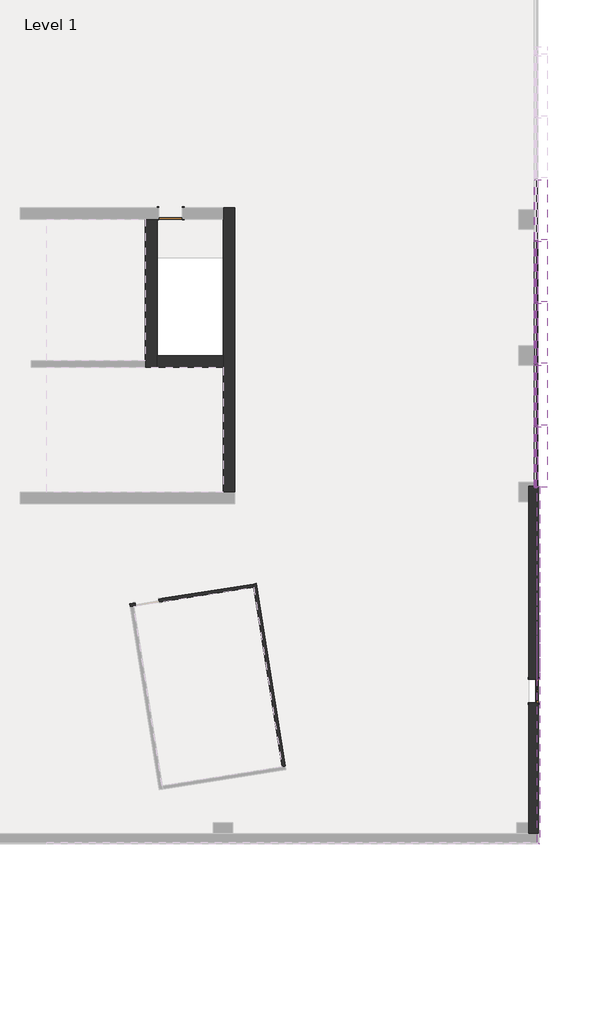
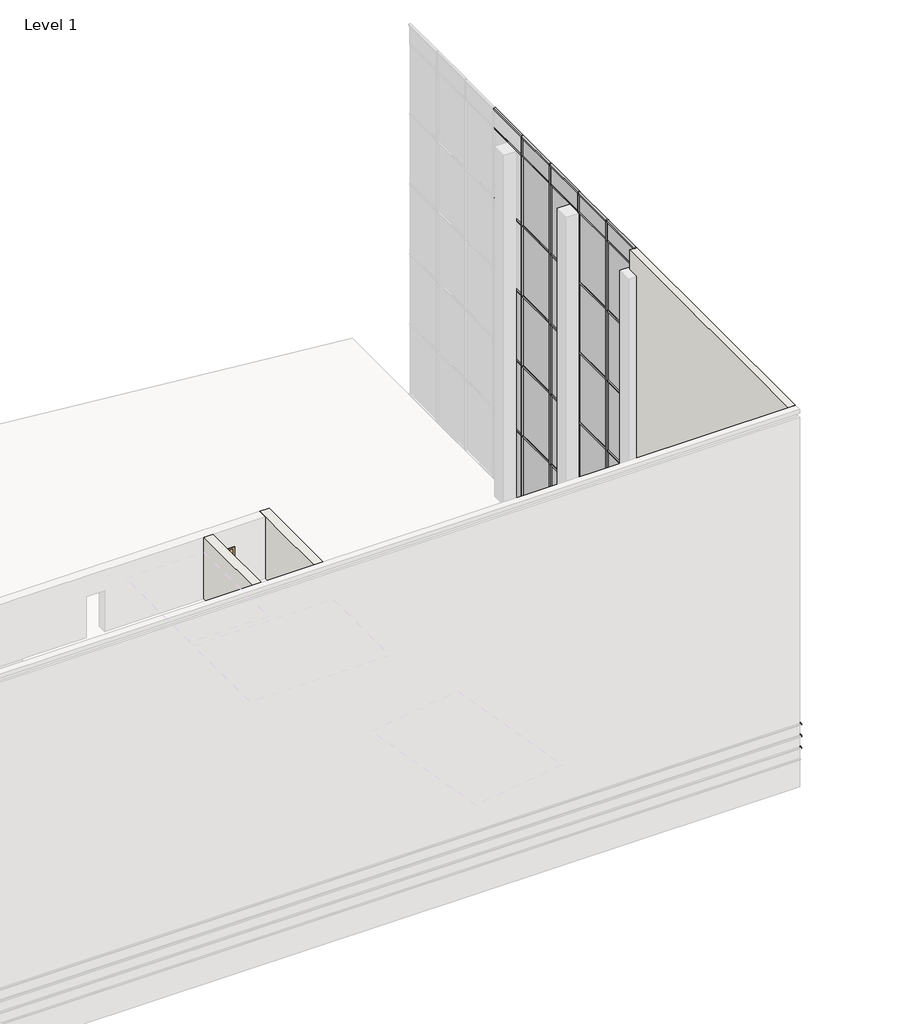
# One storey, part 8 of 23: 64 members, 27 plates, 6 walls, 3 proxies, 2 doors.
"""IFC4 building model written with IfcOpenShell, lengths in millimetres."""

from ifc_helpers import new_model, si_unit, frame, origin, origin_with_axes, place, context, project, spatial, polyline, outline, extrude, faceted_brep, transform, mapped, element, save
from components import door_3c99239a, door_e057ad39, member_4178592a, member_8dc9af40, member_0491a5d0, member_26e31a6d, member_a26b4311, member_810865a4, member_90793d7c, member_64b167af, system_panel_glazed_bb983545, system_panel_solid_a8b18003

model = new_model("IFC4")

# Units and contexts
model_context = context("Model", 3, world=origin())
ifc_project = project(units=[si_unit("LENGTHUNIT", "METRE", prefix="MILLI")], contexts=[model_context])

# Site, building, storey
site = spatial("IfcSite", under=ifc_project)
building = spatial("IfcBuilding", under=site)
storey = spatial("IfcBuildingStorey", under=building, Name="Level 1", Elevation=0.0)

# Proxies
placement = place(None, origin())
element("IfcBuildingElementProxy", 1, Name="Reveals", at=placement, inside=storey, context=model_context, shape_type="SweptSolid", body=[
    extrude(outline(polyline([(15157.6054088, -14142.3728492), (15249.6804088, -14142.3728492), (15249.6804088, -21686.0488327), (15157.6054088, -21686.0488327), (15157.6054088, -14142.3728492)])), frame((0.0, 0.0, 1625.6), z_axis=(0.0, 0.0, 1.0), x_axis=(1.0, 0.0, 0.0)), (0.0, 0.0, 1.0), 67.7333333),
    extrude(outline(polyline([(15157.6054088, -22600.4488327), (15249.6804088, -22600.4488327), (15249.6804088, -28148.8853492), (15157.6054088, -28056.8103492), (15157.6054088, -22600.4488327)])), frame((0.0, 0.0, 1625.6), z_axis=(0.0, 0.0, 1.0), x_axis=(1.0, 0.0, 0.0)), (0.0, 0.0, 1.0), 67.7333333),
])
element("IfcBuildingElementProxy", 2, Name="Reveals", at=placement, inside=storey, context=model_context, shape_type="SweptSolid", body=[
    extrude(outline(polyline([(15157.6054088, -14142.3728492), (15249.6804088, -14142.3728492), (15249.6804088, -28148.8853492), (15157.6054088, -28056.8103492), (15157.6054088, -14142.3728492)])), frame((0.0, 0.0, 2235.2), z_axis=(0.0, 0.0, 1.0), x_axis=(1.0, 0.0, 0.0)), (0.0, 0.0, 1.0), 67.7333333),
])
element("IfcBuildingElementProxy", 3, Name="Reveals", at=placement, inside=storey, context=model_context, shape_type="SweptSolid", body=[
    extrude(outline(polyline([(15157.6054088, -14142.3728492), (15249.6804088, -14142.3728492), (15249.6804088, -28148.8853492), (15157.6054088, -28056.8103492), (15157.6054088, -14142.3728492)])), frame((0.0, 0.0, 2844.8), z_axis=(0.0, 0.0, 1.0), x_axis=(1.0, 0.0, 0.0)), (0.0, 0.0, 1.0), 67.7333333),
])

# Doors
door_shape = door_3c99239a(model_context)
element("IfcDoor", 4, ObjectType="Single-Flush : 36\" x 84\"", at=placement, inside=storey, context=model_context, shape_type="MappedRepresentation", body=[
    mapped(door_shape, transform((817.7000645, -3469.6103492, 0.0), x_axis=(-1.0, 0.0, 0.0), y_axis=(0.0, -1.0, 0.0), z_axis=(0.0, 0.0, 1.0))),
])
door_2_shape = door_e057ad39(model_context)
element("IfcDoor", 5, ObjectType="Single-Glass 3 : 36\" x 84\"", at=placement, inside=storey, context=model_context, shape_type="MappedRepresentation", body=[
    mapped(door_2_shape, transform((15006.7929088, -22143.3728492, 0.0), x_axis=(0.0, -1.0, 0.0), y_axis=(1.0, 0.0, 0.0), z_axis=(0.0, 0.0, 1.0))),
])

# Members
member_shape = member_4178592a(model_context)
element("IfcMember", 6, ObjectType="Quad Corner Mullion : 5\" x 5\" Quad Corner", at=placement, inside=storey, context=model_context, shape_type="MappedRepresentation", body=[
    mapped(member_shape, transform((15106.8054088, -14174.1228492, 19304.0), x_axis=(0.0, 0.0, 1.0), y_axis=(-1.0, 0.0, 0.0), z_axis=(0.0, -1.0, 0.0))),
])
element("IfcMember", 7, ObjectType="Quad Corner Mullion : 5\" x 5\" Quad Corner", at=placement, inside=storey, context=model_context, shape_type="MappedRepresentation", body=[
    mapped(member_shape, transform((15106.8054088, -4501.4913788, 19304.0), x_axis=(0.0, 0.0, 1.0), y_axis=(-1.0, 0.0, 0.0), z_axis=(0.0, -1.0, 0.0))),
])
element("IfcMember", 8, ObjectType="Quad Corner Mullion : 5\" x 5\" Quad Corner", at=placement, inside=storey, context=model_context, shape_type="MappedRepresentation", body=[
    mapped(member_shape, transform((15106.8054088, -6919.6492464, 19304.0), x_axis=(0.0, 0.0, 1.0), y_axis=(-1.0, 0.0, 0.0), z_axis=(0.0, -1.0, 0.0))),
])
element("IfcMember", 9, ObjectType="Quad Corner Mullion : 5\" x 5\" Quad Corner", at=placement, inside=storey, context=model_context, shape_type="MappedRepresentation", body=[
    mapped(member_shape, transform((15106.8054088, -9337.807114, 19304.0), x_axis=(0.0, 0.0, 1.0), y_axis=(-1.0, 0.0, 0.0), z_axis=(0.0, -1.0, 0.0))),
])
element("IfcMember", 10, ObjectType="Quad Corner Mullion : 5\" x 5\" Quad Corner", at=placement, inside=storey, context=model_context, shape_type="MappedRepresentation", body=[
    mapped(member_shape, transform((15106.8054088, -11755.9649816, 19304.0), x_axis=(0.0, 0.0, 1.0), y_axis=(-1.0, 0.0, 0.0), z_axis=(0.0, -1.0, 0.0))),
])
element("IfcMember", 11, ObjectType="Quad Corner Mullion : 5\" x 5\" Quad Corner", at=placement, inside=storey, context=model_context, shape_type="MappedRepresentation", body=[
    mapped(member_shape, transform((15106.8054088, -4564.9913788, 0.0), x_axis=(0.0, 0.0, -1.0), y_axis=(-1.0, 0.0, 0.0), z_axis=(0.0, 1.0, 0.0))),
])
element("IfcMember", 12, ObjectType="Quad Corner Mullion : 5\" x 5\" Quad Corner", at=placement, inside=storey, context=model_context, shape_type="MappedRepresentation", body=[
    mapped(member_shape, transform((15106.8054088, -6983.1492464, 0.0), x_axis=(0.0, 0.0, -1.0), y_axis=(-1.0, 0.0, 0.0), z_axis=(0.0, 1.0, 0.0))),
])
element("IfcMember", 13, ObjectType="Quad Corner Mullion : 5\" x 5\" Quad Corner", at=placement, inside=storey, context=model_context, shape_type="MappedRepresentation", body=[
    mapped(member_shape, transform((15106.8054088, -9401.307114, 0.0), x_axis=(0.0, 0.0, -1.0), y_axis=(-1.0, 0.0, 0.0), z_axis=(0.0, 1.0, 0.0))),
])
element("IfcMember", 14, ObjectType="Quad Corner Mullion : 5\" x 5\" Quad Corner", at=placement, inside=storey, context=model_context, shape_type="MappedRepresentation", body=[
    mapped(member_shape, transform((15106.8054088, -11819.4649816, 0.0), x_axis=(0.0, 0.0, -1.0), y_axis=(-1.0, 0.0, 0.0), z_axis=(0.0, 1.0, 0.0))),
])
member_2_shape = member_8dc9af40(model_context)
element("IfcMember", 15, ObjectType="Rectangular Mullion : 1.5\" x 2.5\" rectangular", at=placement, inside=storey, context=model_context, shape_type="MappedRepresentation", body=[
    mapped(member_2_shape, transform((15106.8054088, -14212.2228492, 3666.6228811), x_axis=(0.0, -1.0, 0.0), y_axis=(-1.0, 0.0, 0.0), z_axis=(0.0, 0.0, -1.0))),
])
element("IfcMember", 16, ObjectType="Rectangular Mullion : 1.5\" x 2.5\" rectangular", at=placement, inside=storey, context=model_context, shape_type="MappedRepresentation", body=[
    mapped(member_2_shape, transform((15106.8054088, -14212.2228492, 7324.2228811), x_axis=(0.0, -1.0, 0.0), y_axis=(-1.0, 0.0, 0.0), z_axis=(0.0, 0.0, -1.0))),
])
element("IfcMember", 17, ObjectType="Rectangular Mullion : 1.5\" x 2.5\" rectangular", at=placement, inside=storey, context=model_context, shape_type="MappedRepresentation", body=[
    mapped(member_2_shape, transform((15106.8054088, -14212.2228492, 10981.8228811), x_axis=(0.0, -1.0, 0.0), y_axis=(-1.0, 0.0, 0.0), z_axis=(0.0, 0.0, -1.0))),
])
element("IfcMember", 18, ObjectType="Rectangular Mullion : 1.5\" x 2.5\" rectangular", at=placement, inside=storey, context=model_context, shape_type="MappedRepresentation", body=[
    mapped(member_2_shape, transform((15106.8054088, -14212.2228492, 14639.4228811), x_axis=(0.0, -1.0, 0.0), y_axis=(-1.0, 0.0, 0.0), z_axis=(0.0, 0.0, -1.0))),
])
member_3_shape = member_0491a5d0(model_context)
element("IfcMember", 19, ObjectType="Rectangular Mullion : 1.5\" x 2.5\" rectangular", at=placement, inside=storey, context=model_context, shape_type="MappedRepresentation", body=[
    mapped(member_3_shape, transform((15106.8054088, -14212.2228492, 0.0), x_axis=(0.0, -1.0, 0.0), y_axis=(-1.0, 0.0, 0.0), z_axis=(0.0, 0.0, -1.0))),
])
member_4_shape = member_26e31a6d(model_context)
element("IfcMember", 20, ObjectType="Rectangular Mullion : 1.5\" x 2.5\" rectangular", at=placement, inside=storey, context=model_context, shape_type="MappedRepresentation", body=[
    mapped(member_4_shape, transform((15106.8054088, -14212.2228492, 18297.0228811), x_axis=(0.0, -1.0, 0.0), y_axis=(-1.0, 0.0, 0.0), z_axis=(0.0, 0.0, -1.0))),
])
member_5_shape = member_a26b4311(model_context)
element("IfcMember", 21, ObjectType="Rectangular Mullion : 2.5\" x 18\" rectangular", at=placement, inside=storey, context=model_context, shape_type="MappedRepresentation", body=[
    mapped(member_5_shape, transform((15106.8054088, -4501.4913788, 3666.6228811), x_axis=(0.0, 0.0, 1.0), y_axis=(-1.0, 0.0, 0.0), z_axis=(0.0, -1.0, 0.0))),
])
element("IfcMember", 22, ObjectType="Rectangular Mullion : 2.5\" x 18\" rectangular", at=placement, inside=storey, context=model_context, shape_type="MappedRepresentation", body=[
    mapped(member_5_shape, transform((15106.8054088, -6919.6492464, 3666.6228811), x_axis=(0.0, 0.0, 1.0), y_axis=(-1.0, 0.0, 0.0), z_axis=(0.0, -1.0, 0.0))),
])
element("IfcMember", 23, ObjectType="Rectangular Mullion : 2.5\" x 18\" rectangular", at=placement, inside=storey, context=model_context, shape_type="MappedRepresentation", body=[
    mapped(member_5_shape, transform((15106.8054088, -9337.807114, 3666.6228811), x_axis=(0.0, 0.0, 1.0), y_axis=(-1.0, 0.0, 0.0), z_axis=(0.0, -1.0, 0.0))),
])
element("IfcMember", 24, ObjectType="Rectangular Mullion : 2.5\" x 18\" rectangular", at=placement, inside=storey, context=model_context, shape_type="MappedRepresentation", body=[
    mapped(member_5_shape, transform((15106.8054088, -11755.9649816, 3666.6228811), x_axis=(0.0, 0.0, 1.0), y_axis=(-1.0, 0.0, 0.0), z_axis=(0.0, -1.0, 0.0))),
])
element("IfcMember", 25, ObjectType="Rectangular Mullion : 2.5\" x 18\" rectangular", at=placement, inside=storey, context=model_context, shape_type="MappedRepresentation", body=[
    mapped(member_5_shape, transform((15106.8054088, -14174.1228492, 3666.6228811), x_axis=(0.0, 0.0, 1.0), y_axis=(-1.0, 0.0, 0.0), z_axis=(0.0, -1.0, 0.0))),
])
element("IfcMember", 26, ObjectType="Rectangular Mullion : 2.5\" x 18\" rectangular", at=placement, inside=storey, context=model_context, shape_type="MappedRepresentation", body=[
    mapped(member_5_shape, transform((15106.8054088, -4501.4913788, 7324.2228811), x_axis=(0.0, 0.0, 1.0), y_axis=(-1.0, 0.0, 0.0), z_axis=(0.0, -1.0, 0.0))),
])
element("IfcMember", 27, ObjectType="Rectangular Mullion : 2.5\" x 18\" rectangular", at=placement, inside=storey, context=model_context, shape_type="MappedRepresentation", body=[
    mapped(member_5_shape, transform((15106.8054088, -6919.6492464, 7324.2228811), x_axis=(0.0, 0.0, 1.0), y_axis=(-1.0, 0.0, 0.0), z_axis=(0.0, -1.0, 0.0))),
])
element("IfcMember", 28, ObjectType="Rectangular Mullion : 2.5\" x 18\" rectangular", at=placement, inside=storey, context=model_context, shape_type="MappedRepresentation", body=[
    mapped(member_5_shape, transform((15106.8054088, -9337.807114, 7324.2228811), x_axis=(0.0, 0.0, 1.0), y_axis=(-1.0, 0.0, 0.0), z_axis=(0.0, -1.0, 0.0))),
])
element("IfcMember", 29, ObjectType="Rectangular Mullion : 2.5\" x 18\" rectangular", at=placement, inside=storey, context=model_context, shape_type="MappedRepresentation", body=[
    mapped(member_5_shape, transform((15106.8054088, -11755.9649816, 7324.2228811), x_axis=(0.0, 0.0, 1.0), y_axis=(-1.0, 0.0, 0.0), z_axis=(0.0, -1.0, 0.0))),
])
element("IfcMember", 30, ObjectType="Rectangular Mullion : 2.5\" x 18\" rectangular", at=placement, inside=storey, context=model_context, shape_type="MappedRepresentation", body=[
    mapped(member_5_shape, transform((15106.8054088, -14174.1228492, 7324.2228811), x_axis=(0.0, 0.0, 1.0), y_axis=(-1.0, 0.0, 0.0), z_axis=(0.0, -1.0, 0.0))),
])
element("IfcMember", 31, ObjectType="Rectangular Mullion : 2.5\" x 18\" rectangular", at=placement, inside=storey, context=model_context, shape_type="MappedRepresentation", body=[
    mapped(member_5_shape, transform((15106.8054088, -4501.4913788, 10981.8228811), x_axis=(0.0, 0.0, 1.0), y_axis=(-1.0, 0.0, 0.0), z_axis=(0.0, -1.0, 0.0))),
])
element("IfcMember", 32, ObjectType="Rectangular Mullion : 2.5\" x 18\" rectangular", at=placement, inside=storey, context=model_context, shape_type="MappedRepresentation", body=[
    mapped(member_5_shape, transform((15106.8054088, -6919.6492464, 10981.8228811), x_axis=(0.0, 0.0, 1.0), y_axis=(-1.0, 0.0, 0.0), z_axis=(0.0, -1.0, 0.0))),
])
element("IfcMember", 33, ObjectType="Rectangular Mullion : 2.5\" x 18\" rectangular", at=placement, inside=storey, context=model_context, shape_type="MappedRepresentation", body=[
    mapped(member_5_shape, transform((15106.8054088, -9337.807114, 10981.8228811), x_axis=(0.0, 0.0, 1.0), y_axis=(-1.0, 0.0, 0.0), z_axis=(0.0, -1.0, 0.0))),
])
element("IfcMember", 34, ObjectType="Rectangular Mullion : 2.5\" x 18\" rectangular", at=placement, inside=storey, context=model_context, shape_type="MappedRepresentation", body=[
    mapped(member_5_shape, transform((15106.8054088, -11755.9649816, 10981.8228811), x_axis=(0.0, 0.0, 1.0), y_axis=(-1.0, 0.0, 0.0), z_axis=(0.0, -1.0, 0.0))),
])
element("IfcMember", 35, ObjectType="Rectangular Mullion : 2.5\" x 18\" rectangular", at=placement, inside=storey, context=model_context, shape_type="MappedRepresentation", body=[
    mapped(member_5_shape, transform((15106.8054088, -14174.1228492, 10981.8228811), x_axis=(0.0, 0.0, 1.0), y_axis=(-1.0, 0.0, 0.0), z_axis=(0.0, -1.0, 0.0))),
])
element("IfcMember", 36, ObjectType="Rectangular Mullion : 2.5\" x 18\" rectangular", at=placement, inside=storey, context=model_context, shape_type="MappedRepresentation", body=[
    mapped(member_5_shape, transform((15106.8054088, -4501.4913788, 14639.4228811), x_axis=(0.0, 0.0, 1.0), y_axis=(-1.0, 0.0, 0.0), z_axis=(0.0, -1.0, 0.0))),
])
element("IfcMember", 37, ObjectType="Rectangular Mullion : 2.5\" x 18\" rectangular", at=placement, inside=storey, context=model_context, shape_type="MappedRepresentation", body=[
    mapped(member_5_shape, transform((15106.8054088, -6919.6492464, 14639.4228811), x_axis=(0.0, 0.0, 1.0), y_axis=(-1.0, 0.0, 0.0), z_axis=(0.0, -1.0, 0.0))),
])
element("IfcMember", 38, ObjectType="Rectangular Mullion : 2.5\" x 18\" rectangular", at=placement, inside=storey, context=model_context, shape_type="MappedRepresentation", body=[
    mapped(member_5_shape, transform((15106.8054088, -9337.807114, 14639.4228811), x_axis=(0.0, 0.0, 1.0), y_axis=(-1.0, 0.0, 0.0), z_axis=(0.0, -1.0, 0.0))),
])
element("IfcMember", 39, ObjectType="Rectangular Mullion : 2.5\" x 18\" rectangular", at=placement, inside=storey, context=model_context, shape_type="MappedRepresentation", body=[
    mapped(member_5_shape, transform((15106.8054088, -11755.9649816, 14639.4228811), x_axis=(0.0, 0.0, 1.0), y_axis=(-1.0, 0.0, 0.0), z_axis=(0.0, -1.0, 0.0))),
])
element("IfcMember", 40, ObjectType="Rectangular Mullion : 2.5\" x 18\" rectangular", at=placement, inside=storey, context=model_context, shape_type="MappedRepresentation", body=[
    mapped(member_5_shape, transform((15106.8054088, -14174.1228492, 14639.4228811), x_axis=(0.0, 0.0, 1.0), y_axis=(-1.0, 0.0, 0.0), z_axis=(0.0, -1.0, 0.0))),
])
element("IfcMember", 41, ObjectType="Rectangular Mullion : 2.5\" x 18\" rectangular", at=placement, inside=storey, context=model_context, shape_type="MappedRepresentation", body=[
    mapped(member_5_shape, transform((15106.8054088, -4501.4913788, 18297.0228811), x_axis=(0.0, 0.0, 1.0), y_axis=(-1.0, 0.0, 0.0), z_axis=(0.0, -1.0, 0.0))),
])
element("IfcMember", 42, ObjectType="Rectangular Mullion : 2.5\" x 18\" rectangular", at=placement, inside=storey, context=model_context, shape_type="MappedRepresentation", body=[
    mapped(member_5_shape, transform((15106.8054088, -6919.6492464, 18297.0228811), x_axis=(0.0, 0.0, 1.0), y_axis=(-1.0, 0.0, 0.0), z_axis=(0.0, -1.0, 0.0))),
])
element("IfcMember", 43, ObjectType="Rectangular Mullion : 2.5\" x 18\" rectangular", at=placement, inside=storey, context=model_context, shape_type="MappedRepresentation", body=[
    mapped(member_5_shape, transform((15106.8054088, -9337.807114, 18297.0228811), x_axis=(0.0, 0.0, 1.0), y_axis=(-1.0, 0.0, 0.0), z_axis=(0.0, -1.0, 0.0))),
])
element("IfcMember", 44, ObjectType="Rectangular Mullion : 2.5\" x 18\" rectangular", at=placement, inside=storey, context=model_context, shape_type="MappedRepresentation", body=[
    mapped(member_5_shape, transform((15106.8054088, -11755.9649816, 18297.0228811), x_axis=(0.0, 0.0, 1.0), y_axis=(-1.0, 0.0, 0.0), z_axis=(0.0, -1.0, 0.0))),
])
element("IfcMember", 45, ObjectType="Rectangular Mullion : 2.5\" x 18\" rectangular", at=placement, inside=storey, context=model_context, shape_type="MappedRepresentation", body=[
    mapped(member_5_shape, transform((15106.8054088, -14174.1228492, 18297.0228811), x_axis=(0.0, 0.0, 1.0), y_axis=(-1.0, 0.0, 0.0), z_axis=(0.0, -1.0, 0.0))),
])
member_6_shape = member_810865a4(model_context)
element("IfcMember", 46, ObjectType="Rectangular Mullion : 2.5\" x 5\" rectangular", at=placement, inside=storey, context=model_context, shape_type="MappedRepresentation", body=[
    mapped(member_6_shape, transform((15106.8054088, -9369.557114, 3666.6228811), x_axis=(0.0, -1.0, 0.0), y_axis=(-1.0, 0.0, 0.0), z_axis=(0.0, 0.0, -1.0))),
])
element("IfcMember", 47, ObjectType="Rectangular Mullion : 2.5\" x 5\" rectangular", at=placement, inside=storey, context=model_context, shape_type="MappedRepresentation", body=[
    mapped(member_6_shape, transform((15106.8054088, -4533.2413788, 3666.6228811), x_axis=(0.0, -1.0, 0.0), y_axis=(-1.0, 0.0, 0.0), z_axis=(0.0, 0.0, -1.0))),
])
element("IfcMember", 48, ObjectType="Rectangular Mullion : 2.5\" x 5\" rectangular", at=placement, inside=storey, context=model_context, shape_type="MappedRepresentation", body=[
    mapped(member_6_shape, transform((15106.8054088, -6951.3992464, 3666.6228811), x_axis=(0.0, -1.0, 0.0), y_axis=(-1.0, 0.0, 0.0), z_axis=(0.0, 0.0, -1.0))),
])
element("IfcMember", 49, ObjectType="Rectangular Mullion : 2.5\" x 5\" rectangular", at=placement, inside=storey, context=model_context, shape_type="MappedRepresentation", body=[
    mapped(member_6_shape, transform((15106.8054088, -11787.7149816, 3666.6228811), x_axis=(0.0, -1.0, 0.0), y_axis=(-1.0, 0.0, 0.0), z_axis=(0.0, 0.0, -1.0))),
])
element("IfcMember", 50, ObjectType="Rectangular Mullion : 2.5\" x 5\" rectangular", at=placement, inside=storey, context=model_context, shape_type="MappedRepresentation", body=[
    mapped(member_6_shape, transform((15106.8054088, -9369.557114, 7324.2228811), x_axis=(0.0, -1.0, 0.0), y_axis=(-1.0, 0.0, 0.0), z_axis=(0.0, 0.0, -1.0))),
])
element("IfcMember", 51, ObjectType="Rectangular Mullion : 2.5\" x 5\" rectangular", at=placement, inside=storey, context=model_context, shape_type="MappedRepresentation", body=[
    mapped(member_6_shape, transform((15106.8054088, -4533.2413788, 7324.2228811), x_axis=(0.0, -1.0, 0.0), y_axis=(-1.0, 0.0, 0.0), z_axis=(0.0, 0.0, -1.0))),
])
element("IfcMember", 52, ObjectType="Rectangular Mullion : 2.5\" x 5\" rectangular", at=placement, inside=storey, context=model_context, shape_type="MappedRepresentation", body=[
    mapped(member_6_shape, transform((15106.8054088, -6951.3992464, 7324.2228811), x_axis=(0.0, -1.0, 0.0), y_axis=(-1.0, 0.0, 0.0), z_axis=(0.0, 0.0, -1.0))),
])
element("IfcMember", 53, ObjectType="Rectangular Mullion : 2.5\" x 5\" rectangular", at=placement, inside=storey, context=model_context, shape_type="MappedRepresentation", body=[
    mapped(member_6_shape, transform((15106.8054088, -11787.7149816, 7324.2228811), x_axis=(0.0, -1.0, 0.0), y_axis=(-1.0, 0.0, 0.0), z_axis=(0.0, 0.0, -1.0))),
])
element("IfcMember", 54, ObjectType="Rectangular Mullion : 2.5\" x 5\" rectangular", at=placement, inside=storey, context=model_context, shape_type="MappedRepresentation", body=[
    mapped(member_6_shape, transform((15106.8054088, -9369.557114, 10981.8228811), x_axis=(0.0, -1.0, 0.0), y_axis=(-1.0, 0.0, 0.0), z_axis=(0.0, 0.0, -1.0))),
])
element("IfcMember", 55, ObjectType="Rectangular Mullion : 2.5\" x 5\" rectangular", at=placement, inside=storey, context=model_context, shape_type="MappedRepresentation", body=[
    mapped(member_6_shape, transform((15106.8054088, -4533.2413788, 10981.8228811), x_axis=(0.0, -1.0, 0.0), y_axis=(-1.0, 0.0, 0.0), z_axis=(0.0, 0.0, -1.0))),
])
element("IfcMember", 56, ObjectType="Rectangular Mullion : 2.5\" x 5\" rectangular", at=placement, inside=storey, context=model_context, shape_type="MappedRepresentation", body=[
    mapped(member_6_shape, transform((15106.8054088, -6951.3992464, 10981.8228811), x_axis=(0.0, -1.0, 0.0), y_axis=(-1.0, 0.0, 0.0), z_axis=(0.0, 0.0, -1.0))),
])
element("IfcMember", 57, ObjectType="Rectangular Mullion : 2.5\" x 5\" rectangular", at=placement, inside=storey, context=model_context, shape_type="MappedRepresentation", body=[
    mapped(member_6_shape, transform((15106.8054088, -11787.7149816, 10981.8228811), x_axis=(0.0, -1.0, 0.0), y_axis=(-1.0, 0.0, 0.0), z_axis=(0.0, 0.0, -1.0))),
])
element("IfcMember", 58, ObjectType="Rectangular Mullion : 2.5\" x 5\" rectangular", at=placement, inside=storey, context=model_context, shape_type="MappedRepresentation", body=[
    mapped(member_6_shape, transform((15106.8054088, -9369.557114, 14639.4228811), x_axis=(0.0, -1.0, 0.0), y_axis=(-1.0, 0.0, 0.0), z_axis=(0.0, 0.0, -1.0))),
])
element("IfcMember", 59, ObjectType="Rectangular Mullion : 2.5\" x 5\" rectangular", at=placement, inside=storey, context=model_context, shape_type="MappedRepresentation", body=[
    mapped(member_6_shape, transform((15106.8054088, -4533.2413788, 14639.4228811), x_axis=(0.0, -1.0, 0.0), y_axis=(-1.0, 0.0, 0.0), z_axis=(0.0, 0.0, -1.0))),
])
element("IfcMember", 60, ObjectType="Rectangular Mullion : 2.5\" x 5\" rectangular", at=placement, inside=storey, context=model_context, shape_type="MappedRepresentation", body=[
    mapped(member_6_shape, transform((15106.8054088, -6951.3992464, 14639.4228811), x_axis=(0.0, -1.0, 0.0), y_axis=(-1.0, 0.0, 0.0), z_axis=(0.0, 0.0, -1.0))),
])
element("IfcMember", 61, ObjectType="Rectangular Mullion : 2.5\" x 5\" rectangular", at=placement, inside=storey, context=model_context, shape_type="MappedRepresentation", body=[
    mapped(member_6_shape, transform((15106.8054088, -11787.7149816, 14639.4228811), x_axis=(0.0, -1.0, 0.0), y_axis=(-1.0, 0.0, 0.0), z_axis=(0.0, 0.0, -1.0))),
])
member_7_shape = member_90793d7c(model_context)
element("IfcMember", 62, ObjectType="Rectangular Mullion : 2.5\" x 5\" rectangular", at=placement, inside=storey, context=model_context, shape_type="MappedRepresentation", body=[
    mapped(member_7_shape, transform((15106.8054088, -9369.557114, 0.0), x_axis=(0.0, -1.0, 0.0), y_axis=(-1.0, 0.0, 0.0), z_axis=(0.0, 0.0, -1.0))),
])
element("IfcMember", 63, ObjectType="Rectangular Mullion : 2.5\" x 5\" rectangular", at=placement, inside=storey, context=model_context, shape_type="MappedRepresentation", body=[
    mapped(member_7_shape, transform((15106.8054088, -4533.2413788, 0.0), x_axis=(0.0, -1.0, 0.0), y_axis=(-1.0, 0.0, 0.0), z_axis=(0.0, 0.0, -1.0))),
])
element("IfcMember", 64, ObjectType="Rectangular Mullion : 2.5\" x 5\" rectangular", at=placement, inside=storey, context=model_context, shape_type="MappedRepresentation", body=[
    mapped(member_7_shape, transform((15106.8054088, -6951.3992464, 0.0), x_axis=(0.0, -1.0, 0.0), y_axis=(-1.0, 0.0, 0.0), z_axis=(0.0, 0.0, -1.0))),
])
element("IfcMember", 65, ObjectType="Rectangular Mullion : 2.5\" x 5\" rectangular", at=placement, inside=storey, context=model_context, shape_type="MappedRepresentation", body=[
    mapped(member_7_shape, transform((15106.8054088, -11787.7149816, 0.0), x_axis=(0.0, -1.0, 0.0), y_axis=(-1.0, 0.0, 0.0), z_axis=(0.0, 0.0, -1.0))),
])
member_8_shape = member_64b167af(model_context)
element("IfcMember", 66, ObjectType="Rectangular Mullion : 2.5\" x 5\" rectangular", at=placement, inside=storey, context=model_context, shape_type="MappedRepresentation", body=[
    mapped(member_8_shape, transform((15106.8054088, -9369.557114, 18297.0228811), x_axis=(0.0, -1.0, 0.0), y_axis=(-1.0, 0.0, 0.0), z_axis=(0.0, 0.0, -1.0))),
])
element("IfcMember", 67, ObjectType="Rectangular Mullion : 2.5\" x 5\" rectangular", at=placement, inside=storey, context=model_context, shape_type="MappedRepresentation", body=[
    mapped(member_8_shape, transform((15106.8054088, -4533.2413788, 18297.0228811), x_axis=(0.0, -1.0, 0.0), y_axis=(-1.0, 0.0, 0.0), z_axis=(0.0, 0.0, -1.0))),
])
element("IfcMember", 68, ObjectType="Rectangular Mullion : 2.5\" x 5\" rectangular", at=placement, inside=storey, context=model_context, shape_type="MappedRepresentation", body=[
    mapped(member_8_shape, transform((15106.8054088, -6951.3992464, 18297.0228811), x_axis=(0.0, -1.0, 0.0), y_axis=(-1.0, 0.0, 0.0), z_axis=(0.0, 0.0, -1.0))),
])
element("IfcMember", 69, ObjectType="Rectangular Mullion : 2.5\" x 5\" rectangular", at=placement, inside=storey, context=model_context, shape_type="MappedRepresentation", body=[
    mapped(member_8_shape, transform((15106.8054088, -11787.7149816, 18297.0228811), x_axis=(0.0, -1.0, 0.0), y_axis=(-1.0, 0.0, 0.0), z_axis=(0.0, 0.0, -1.0))),
])

# Plates
system_panel_glazed_shape = system_panel_glazed_bb983545(model_context)
element("IfcPlate", 70, ObjectType="System Panel : Glazed", at=placement, inside=storey, context=model_context, shape_type="MappedRepresentation", body=[
    mapped(system_panel_glazed_shape, transform((15106.8054088, -3324.162445, 40.7728811), x_axis=(0.0, -1.0, 0.0), y_axis=(1.0, 0.0, 0.0), z_axis=(0.0, 0.0, 1.0))),
])
element("IfcPlate", 71, ObjectType="System Panel : Glazed", at=placement, inside=storey, context=model_context, shape_type="MappedRepresentation", body=[
    mapped(system_panel_glazed_shape, transform((15106.8054088, -3324.162445, 3698.3728811), x_axis=(0.0, -1.0, 0.0), y_axis=(1.0, 0.0, 0.0), z_axis=(0.0, 0.0, 1.0))),
])
element("IfcPlate", 72, ObjectType="System Panel : Glazed", at=placement, inside=storey, context=model_context, shape_type="MappedRepresentation", body=[
    mapped(system_panel_glazed_shape, transform((15106.8054088, -3324.162445, 7355.9728811), x_axis=(0.0, -1.0, 0.0), y_axis=(1.0, 0.0, 0.0), z_axis=(0.0, 0.0, 1.0))),
])
element("IfcPlate", 73, ObjectType="System Panel : Glazed", at=placement, inside=storey, context=model_context, shape_type="MappedRepresentation", body=[
    mapped(system_panel_glazed_shape, transform((15106.8054088, -5742.3203126, 40.7728811), x_axis=(0.0, -1.0, 0.0), y_axis=(1.0, 0.0, 0.0), z_axis=(0.0, 0.0, 1.0))),
])
element("IfcPlate", 74, ObjectType="System Panel : Glazed", at=placement, inside=storey, context=model_context, shape_type="MappedRepresentation", body=[
    mapped(system_panel_glazed_shape, transform((15106.8054088, -5742.3203126, 3698.3728811), x_axis=(0.0, -1.0, 0.0), y_axis=(1.0, 0.0, 0.0), z_axis=(0.0, 0.0, 1.0))),
])
element("IfcPlate", 75, ObjectType="System Panel : Glazed", at=placement, inside=storey, context=model_context, shape_type="MappedRepresentation", body=[
    mapped(system_panel_glazed_shape, transform((15106.8054088, -5742.3203126, 7355.9728811), x_axis=(0.0, -1.0, 0.0), y_axis=(1.0, 0.0, 0.0), z_axis=(0.0, 0.0, 1.0))),
])
element("IfcPlate", 76, ObjectType="System Panel : Glazed", at=placement, inside=storey, context=model_context, shape_type="MappedRepresentation", body=[
    mapped(system_panel_glazed_shape, transform((15106.8054088, -5742.3203126, 11013.5728811), x_axis=(0.0, -1.0, 0.0), y_axis=(1.0, 0.0, 0.0), z_axis=(0.0, 0.0, 1.0))),
])
element("IfcPlate", 77, ObjectType="System Panel : Glazed", at=placement, inside=storey, context=model_context, shape_type="MappedRepresentation", body=[
    mapped(system_panel_glazed_shape, transform((15106.8054088, -5742.3203126, 14671.1728811), x_axis=(0.0, -1.0, 0.0), y_axis=(1.0, 0.0, 0.0), z_axis=(0.0, 0.0, 1.0))),
])
element("IfcPlate", 78, ObjectType="System Panel : Glazed", at=placement, inside=storey, context=model_context, shape_type="MappedRepresentation", body=[
    mapped(system_panel_glazed_shape, transform((15106.8054088, -8160.4781802, 40.7728811), x_axis=(0.0, -1.0, 0.0), y_axis=(1.0, 0.0, 0.0), z_axis=(0.0, 0.0, 1.0))),
])
element("IfcPlate", 79, ObjectType="System Panel : Glazed", at=placement, inside=storey, context=model_context, shape_type="MappedRepresentation", body=[
    mapped(system_panel_glazed_shape, transform((15106.8054088, -8160.4781802, 3698.3728811), x_axis=(0.0, -1.0, 0.0), y_axis=(1.0, 0.0, 0.0), z_axis=(0.0, 0.0, 1.0))),
])
element("IfcPlate", 80, ObjectType="System Panel : Glazed", at=placement, inside=storey, context=model_context, shape_type="MappedRepresentation", body=[
    mapped(system_panel_glazed_shape, transform((15106.8054088, -8160.4781802, 7355.9728811), x_axis=(0.0, -1.0, 0.0), y_axis=(1.0, 0.0, 0.0), z_axis=(0.0, 0.0, 1.0))),
])
element("IfcPlate", 81, ObjectType="System Panel : Glazed", at=placement, inside=storey, context=model_context, shape_type="MappedRepresentation", body=[
    mapped(system_panel_glazed_shape, transform((15106.8054088, -8160.4781802, 11013.5728811), x_axis=(0.0, -1.0, 0.0), y_axis=(1.0, 0.0, 0.0), z_axis=(0.0, 0.0, 1.0))),
])
element("IfcPlate", 82, ObjectType="System Panel : Glazed", at=placement, inside=storey, context=model_context, shape_type="MappedRepresentation", body=[
    mapped(system_panel_glazed_shape, transform((15106.8054088, -8160.4781802, 14671.1728811), x_axis=(0.0, -1.0, 0.0), y_axis=(1.0, 0.0, 0.0), z_axis=(0.0, 0.0, 1.0))),
])
element("IfcPlate", 83, ObjectType="System Panel : Glazed", at=placement, inside=storey, context=model_context, shape_type="MappedRepresentation", body=[
    mapped(system_panel_glazed_shape, transform((15106.8054088, -10578.6360478, 40.7728811), x_axis=(0.0, -1.0, 0.0), y_axis=(1.0, 0.0, 0.0), z_axis=(0.0, 0.0, 1.0))),
])
element("IfcPlate", 84, ObjectType="System Panel : Glazed", at=placement, inside=storey, context=model_context, shape_type="MappedRepresentation", body=[
    mapped(system_panel_glazed_shape, transform((15106.8054088, -10578.6360478, 3698.3728811), x_axis=(0.0, -1.0, 0.0), y_axis=(1.0, 0.0, 0.0), z_axis=(0.0, 0.0, 1.0))),
])
element("IfcPlate", 85, ObjectType="System Panel : Glazed", at=placement, inside=storey, context=model_context, shape_type="MappedRepresentation", body=[
    mapped(system_panel_glazed_shape, transform((15106.8054088, -10578.6360478, 7355.9728811), x_axis=(0.0, -1.0, 0.0), y_axis=(1.0, 0.0, 0.0), z_axis=(0.0, 0.0, 1.0))),
])
element("IfcPlate", 86, ObjectType="System Panel : Glazed", at=placement, inside=storey, context=model_context, shape_type="MappedRepresentation", body=[
    mapped(system_panel_glazed_shape, transform((15106.8054088, -10578.6360478, 11013.5728811), x_axis=(0.0, -1.0, 0.0), y_axis=(1.0, 0.0, 0.0), z_axis=(0.0, 0.0, 1.0))),
])
element("IfcPlate", 87, ObjectType="System Panel : Glazed", at=placement, inside=storey, context=model_context, shape_type="MappedRepresentation", body=[
    mapped(system_panel_glazed_shape, transform((15106.8054088, -10578.6360478, 14671.1728811), x_axis=(0.0, -1.0, 0.0), y_axis=(1.0, 0.0, 0.0), z_axis=(0.0, 0.0, 1.0))),
])
element("IfcPlate", 88, ObjectType="System Panel : Glazed", at=placement, inside=storey, context=model_context, shape_type="MappedRepresentation", body=[
    mapped(system_panel_glazed_shape, transform((15106.8054088, -12996.7939154, 40.7728811), x_axis=(0.0, -1.0, 0.0), y_axis=(1.0, 0.0, 0.0), z_axis=(0.0, 0.0, 1.0))),
])
element("IfcPlate", 89, ObjectType="System Panel : Glazed", at=placement, inside=storey, context=model_context, shape_type="MappedRepresentation", body=[
    mapped(system_panel_glazed_shape, transform((15106.8054088, -12996.7939154, 3698.3728811), x_axis=(0.0, -1.0, 0.0), y_axis=(1.0, 0.0, 0.0), z_axis=(0.0, 0.0, 1.0))),
])
element("IfcPlate", 90, ObjectType="System Panel : Glazed", at=placement, inside=storey, context=model_context, shape_type="MappedRepresentation", body=[
    mapped(system_panel_glazed_shape, transform((15106.8054088, -12996.7939154, 7355.9728811), x_axis=(0.0, -1.0, 0.0), y_axis=(1.0, 0.0, 0.0), z_axis=(0.0, 0.0, 1.0))),
])
element("IfcPlate", 91, ObjectType="System Panel : Glazed", at=placement, inside=storey, context=model_context, shape_type="MappedRepresentation", body=[
    mapped(system_panel_glazed_shape, transform((15106.8054088, -12996.7939154, 11013.5728811), x_axis=(0.0, -1.0, 0.0), y_axis=(1.0, 0.0, 0.0), z_axis=(0.0, 0.0, 1.0))),
])
element("IfcPlate", 92, ObjectType="System Panel : Glazed", at=placement, inside=storey, context=model_context, shape_type="MappedRepresentation", body=[
    mapped(system_panel_glazed_shape, transform((15106.8054088, -12996.7939154, 14671.1728811), x_axis=(0.0, -1.0, 0.0), y_axis=(1.0, 0.0, 0.0), z_axis=(0.0, 0.0, 1.0))),
])
system_panel_solid_shape = system_panel_solid_a8b18003(model_context)
element("IfcPlate", 93, ObjectType="System Panel : Solid", at=placement, inside=storey, context=model_context, shape_type="MappedRepresentation", body=[
    mapped(system_panel_solid_shape, transform((15106.8054088, -5742.3203126, 18328.7728811), x_axis=(0.0, -1.0, 0.0), y_axis=(1.0, 0.0, 0.0), z_axis=(0.0, 0.0, 1.0))),
])
element("IfcPlate", 94, ObjectType="System Panel : Solid", at=placement, inside=storey, context=model_context, shape_type="MappedRepresentation", body=[
    mapped(system_panel_solid_shape, transform((15106.8054088, -8160.4781802, 18328.7728811), x_axis=(0.0, -1.0, 0.0), y_axis=(1.0, 0.0, 0.0), z_axis=(0.0, 0.0, 1.0))),
])
element("IfcPlate", 95, ObjectType="System Panel : Solid", at=placement, inside=storey, context=model_context, shape_type="MappedRepresentation", body=[
    mapped(system_panel_solid_shape, transform((15106.8054088, -10578.6360478, 18328.7728811), x_axis=(0.0, -1.0, 0.0), y_axis=(1.0, 0.0, 0.0), z_axis=(0.0, 0.0, 1.0))),
])
element("IfcPlate", 96, ObjectType="System Panel : Solid", at=placement, inside=storey, context=model_context, shape_type="MappedRepresentation", body=[
    mapped(system_panel_solid_shape, transform((15106.8054088, -12996.7939154, 18328.7728811), x_axis=(0.0, -1.0, 0.0), y_axis=(1.0, 0.0, 0.0), z_axis=(0.0, 0.0, 1.0))),
])

# Walls
element("IfcWall", 97, ObjectType="Core-shaft 18\" Concrete", at=placement, inside=storey, context=model_context, shape_type="Brep", body=[
    faceted_brep([(2867.8429217, -3241.0103492, 0.0), (2867.8429217, -3698.2103492, 0.0), (2867.8429217, -9032.2103492, 0.0), (2867.8429217, -9489.4103492, 0.0), (2867.8429217, -14366.2103492, 0.0), (2867.8429217, -14366.2103492, 3222.625), (2867.8429217, -9489.4103492, 3222.625), (2867.8429217, -9032.2103492, 3222.625), (2867.8429217, -3698.2103492, 3222.625), (2867.8429217, -3241.0103492, 3222.625), (3325.0429217, -3241.0103492, 0.0), (3325.0429217, -3241.0103492, 3222.625), (3325.0429217, -14366.2103492, 3222.625), (3325.0429217, -14366.2103492, 0.0)], [[[0, 1, 2, 3, 4, 5, 6, 7, 8, 9]], [[10, 11, 12, 13]], [[4, 3, 2, 1, 0, 10, 13]], [[0, 9, 11, 10]], [[5, 4, 13, 12]], [[9, 8, 7, 6, 5, 12, 11]]]),
])
element("IfcWall", 98, ObjectType="Core-shaft 18\" Concrete", at=placement, inside=storey, context=model_context, shape_type="Brep", body=[
    faceted_brep([(-172.8999355, -3698.2103492, 0.0), (-172.8999355, -9235.4103492, 0.0), (-172.8999355, -9489.4103492, 0.0), (-172.8999355, -9489.4103492, 3222.625), (-172.8999355, -9235.4103492, 3222.625), (-172.8999355, -3698.2103492, 3222.625), (284.3000645, -3698.2103492, 0.0), (284.3000645, -3698.2103492, 3222.625), (284.3000645, -9032.2103492, 3222.625), (284.3000645, -9489.4103492, 3222.625), (284.3000645, -9489.4103492, 0.0), (284.3000645, -9032.2103492, 0.0)], [[[0, 1, 2, 3, 4, 5]], [[6, 7, 8, 9, 10, 11]], [[2, 1, 0, 6, 11, 10]], [[3, 2, 10, 9]], [[0, 5, 7, 6]], [[5, 4, 3, 9, 8, 7]]]),
])
element("IfcWall", 99, ObjectType="Core-shaft 18\" Concrete", at=placement, inside=storey, context=model_context, shape_type="SweptSolid", body=[
    extrude(outline(polyline([(2867.8429217, -9489.4103492), (284.3000645, -9489.4103492), (284.3000645, -9032.2103492), (2867.8429217, -9032.2103492), (2867.8429217, -9489.4103492)])), origin_with_axes(), (0.0, 0.0, 1.0), 3222.625),
])
element("IfcWall", 100, ObjectType="Exterior - Brick and CMU on MTL. Stud", at=placement, inside=storey, context=model_context, shape_type="Brep", body=[
    faceted_brep([(14830.5804088, -27729.7853492, 19304.0), (14830.5804088, -14142.3728492, 19304.0), (14830.5804088, -14142.3728492, 7315.2), (14830.5804088, -14142.3728492, 3657.6), (14830.5804088, -14218.4266737, 3657.6), (14830.5804088, -14218.4266737, 3222.625), (14830.5804088, -14142.3728492, 3222.625), (14830.5804088, -14142.3728492, 0.0), (14830.5804088, -21686.0488327, 0.0), (14830.5804088, -21686.0488327, 2133.6), (14830.5804088, -22600.4488327, 2133.6), (14830.5804088, -22600.4488327, 0.0), (14830.5804088, -27729.7853492, 0.0), (14830.5804088, -27729.7853492, 3222.625), (14830.5804088, -27729.7853492, 3657.6), (14830.5804088, -16656.9728492, 5943.6), (14830.5804088, -16656.9728492, 4572.0), (14830.5804088, -15132.9728492, 4572.0), (14830.5804088, -15132.9728492, 5943.6), (14830.5804088, -19095.3728492, 5943.6), (14830.5804088, -19095.3728492, 4572.0), (14830.5804088, -17571.3728492, 4572.0), (14830.5804088, -17571.3728492, 5943.6), (15183.0054088, -14142.3728492, 19304.0), (15183.0054088, -27729.7853492, 19304.0), (15183.0054088, -27729.7853492, 19100.8), (15183.0054088, -14142.3728492, 19100.8), (15183.0054088, -21686.0488327, 0.0), (15183.0054088, -22600.4488327, 0.0), (15183.0054088, -22600.4488327, 1016.0), (15183.0054088, -27729.7853492, 1016.0), (15183.0054088, -27729.7853492, 0.0), (15183.0054088, -27990.1353492, 0.0), (15183.0054088, -27990.1353492, -406.4), (15183.0054088, -14142.3728492, -406.4), (15183.0054088, -14142.3728492, 1016.0), (15183.0054088, -21686.0488327, 1016.0), (15183.0054088, -22600.4488327, 2133.6), (15183.0054088, -21686.0488327, 2133.6), (15183.0054088, -21686.0488327, 1693.3333333), (15183.0054088, -14142.3728492, 1693.3333333), (15183.0054088, -14142.3728492, 2235.2), (15183.0054088, -27729.7853492, 2235.2), (15183.0054088, -27729.7853492, 1693.3333333), (15183.0054088, -22600.4488327, 1693.3333333), (15183.0054088, -14142.3728492, 1625.6), (15183.0054088, -21686.0488327, 1625.6), (15183.0054088, -21686.0488327, 1085.85), (15183.0054088, -14142.3728492, 1085.85), (15183.0054088, -22600.4488327, 1625.6), (15183.0054088, -27729.7853492, 1625.6), (15183.0054088, -27729.7853492, 1085.85), (15183.0054088, -22600.4488327, 1085.85), (15183.0054088, -27729.7853492, 2302.9333333), (15183.0054088, -14142.3728492, 2302.9333333), (15183.0054088, -14142.3728492, 2844.8), (15183.0054088, -27729.7853492, 2844.8), (15183.0054088, -27729.7853492, 2912.5333333), (15183.0054088, -14142.3728492, 2912.5333333), (15183.0054088, -14142.3728492, 18897.6), (15183.0054088, -27729.7853492, 18897.6), (15183.0054088, -16656.9728492, 4572.0), (15183.0054088, -16656.9728492, 5943.6), (15183.0054088, -15132.9728492, 5943.6), (15183.0054088, -15132.9728492, 4572.0), (15183.0054088, -19095.3728492, 4572.0), (15183.0054088, -19095.3728492, 5943.6), (15183.0054088, -17571.3728492, 5943.6), (15183.0054088, -17571.3728492, 4572.0), (15090.9304088, -22600.4488327, 0.0), (15090.9304088, -27729.7853492, 0.0), (15090.9304088, -14142.3728492, 0.0), (15090.9304088, -21686.0488327, 0.0), (15090.9304088, -27990.1353492, 0.0), (15090.9304088, -14142.3728492, -406.4), (15090.9304088, -27990.1353492, -406.4), (15157.6054088, -22600.4488327, 1693.3333333), (15157.6054088, -22600.4488327, 1625.6), (15090.9304088, -22600.4488327, 1085.85), (15090.9304088, -22600.4488327, 1016.0), (15090.9304088, -21686.0488327, 1016.0), (15090.9304088, -21686.0488327, 1085.85), (15157.6054088, -21686.0488327, 1625.6), (15157.6054088, -21686.0488327, 1693.3333333), (15157.6054088, -14142.3728492, 1693.3333333), (15157.6054088, -14142.3728492, 1625.6), (15157.6054088, -27729.7853492, 1693.3333333), (15157.6054088, -27729.7853492, 1625.6), (15157.6054088, -27729.7853492, 2302.9333333), (15157.6054088, -14142.3728492, 2302.9333333), (15157.6054088, -14142.3728492, 2235.2), (15157.6054088, -27729.7853492, 2235.2), (15157.6054088, -27729.7853492, 2912.5333333), (15157.6054088, -14142.3728492, 2912.5333333), (15157.6054088, -14142.3728492, 2844.8), (15157.6054088, -27729.7853492, 2844.8), (15090.9304088, -14142.3728492, 1085.85), (15090.9304088, -14142.3728492, 1016.0), (15090.9304088, -27729.7853492, 1085.85), (15090.9304088, -27729.7853492, 1016.0), (15090.9304088, -14142.3728492, 18897.6), (15090.9304088, -27729.7853492, 18897.6), (15090.9304088, -14142.3728492, 19100.8), (15090.9304088, -27729.7853492, 19100.8), (15043.3054088, -14142.3728492, 3222.625), (15043.3054088, -14142.3728492, 3657.6), (15043.3054088, -14218.4266737, 3222.625), (15043.3054088, -14218.4266737, 3657.6)], [[[0, 1, 2, 3, 4, 5, 6, 7, 8, 9, 10, 11, 12, 13, 14], [15, 16, 17, 18], [19, 20, 21, 22]], [[23, 24, 25, 26]], [[27, 28, 29, 30, 31, 32, 33, 34, 35, 36]], [[37, 38, 39, 40, 41, 42, 43, 44]], [[45, 46, 47, 48]], [[49, 50, 51, 52]], [[53, 54, 55, 56]], [[57, 58, 59, 60], [61, 62, 63, 64], [65, 66, 67, 68]], [[1, 0, 24, 23]], [[12, 11, 69, 70]], [[8, 7, 71, 72]], [[73, 70, 69, 72, 71, 74, 75]], [[28, 27, 72, 69]], [[10, 37, 44, 76, 77, 49, 52, 78, 79, 29, 28, 69, 11]], [[37, 10, 9, 38]], [[38, 9, 8, 72, 27, 36, 80, 81, 47, 46, 82, 83, 39]], [[83, 84, 40, 39]], [[85, 82, 46, 45]], [[84, 83, 82, 85]], [[86, 76, 44, 43]], [[77, 87, 50, 49]], [[76, 86, 87, 77]], [[88, 89, 54, 53]], [[90, 91, 42, 41]], [[89, 88, 91, 90]], [[92, 93, 58, 57]], [[94, 95, 56, 55]], [[93, 92, 95, 94]], [[81, 96, 48, 47]], [[97, 80, 36, 35]], [[96, 81, 80, 97]], [[98, 78, 52, 51]], [[79, 99, 30, 29]], [[78, 98, 99, 79]], [[100, 101, 60, 59]], [[101, 100, 102, 103]], [[103, 102, 26, 25]], [[24, 0, 14, 13, 12, 70, 31, 30, 99, 98, 51, 50, 87, 86, 43, 42, 91, 88, 53, 56, 95, 92, 57, 60, 101, 103, 25]], [[32, 31, 70, 73]], [[75, 33, 32, 73]], [[16, 15, 62, 61]], [[17, 16, 61, 64]], [[18, 17, 64, 63]], [[15, 18, 63, 62]], [[20, 19, 66, 65]], [[21, 20, 65, 68]], [[22, 21, 68, 67]], [[19, 22, 67, 66]], [[1, 23, 26, 102, 100, 59, 58, 93, 94, 55, 54, 89, 90, 41, 40, 84, 85, 45, 48, 96, 97, 35, 34, 74, 71, 7, 6, 104, 105, 3, 2]], [[33, 75, 74, 34]], [[5, 106, 104, 6]], [[107, 4, 3, 105]], [[106, 107, 105, 104]], [[106, 5, 4, 107]]]),
])
element("IfcWall", 101, ObjectType="Generic - 5\"", at=placement, inside=storey, context=model_context, shape_type="Brep", body=[
    faceted_brep([(4042.3085131, -17962.322488, 0.0), (4062.1756902, -18087.7589073, 0.0), (5175.4713993, -25116.831377, 0.0), (5175.4713993, -25116.831377, 3222.625), (4062.1756902, -18087.7589073, 3222.625), (4042.3085131, -17962.322488, 3222.625), (4167.7449324, -17942.455311, 0.0), (4167.7449324, -17942.455311, 3222.625), (5300.9078186, -25096.9642, 3222.625), (5300.9078186, -25096.9642, 0.0)], [[[0, 1, 2, 3, 4, 5]], [[6, 7, 8, 9]], [[2, 1, 0, 6, 9]], [[0, 5, 7, 6]], [[3, 2, 9, 8]], [[5, 4, 3, 8, 7]]]),
])
element("IfcWall", 102, ObjectType="Generic - 5\"", at=placement, inside=storey, context=model_context, shape_type="Brep", body=[
    faceted_brep([(-754.5828092, -18850.6585064, 0.0), (-629.14639, -18830.7913293, 0.0), (-541.3408965, -18816.8843054, 0.0), (-541.3408965, -18816.8843054, 2133.6), (361.8013221, -18673.8406306, 2133.6), (361.8013221, -18673.8406306, 0.0), (4062.1756902, -18087.7589073, 0.0), (4062.1756902, -18087.7589073, 3222.625), (-629.14639, -18830.7913293, 3222.625), (-754.5828092, -18850.6585064, 3222.625), (-561.2080736, -18691.4478861, 2133.6), (-561.2080736, -18691.4478861, 0.0), (-774.4499863, -18725.2220871, 0.0), (-774.4499863, -18725.2220871, 3222.625), (4042.3085131, -17962.322488, 3222.625), (4042.3085131, -17962.322488, 0.0), (341.9341451, -18548.4042113, 0.0), (341.9341451, -18548.4042113, 2133.6)], [[[0, 1, 2, 3, 4, 5, 6, 7, 8, 9]], [[10, 11, 12, 13, 14, 15, 16, 17]], [[16, 15, 6, 5]], [[12, 11, 2, 1, 0]], [[0, 9, 13, 12]], [[7, 6, 15, 14]], [[3, 2, 11, 10]], [[4, 3, 10, 17]], [[5, 4, 17, 16]], [[9, 8, 7, 14, 13]]]),
])

save(model, "model.ifc")
